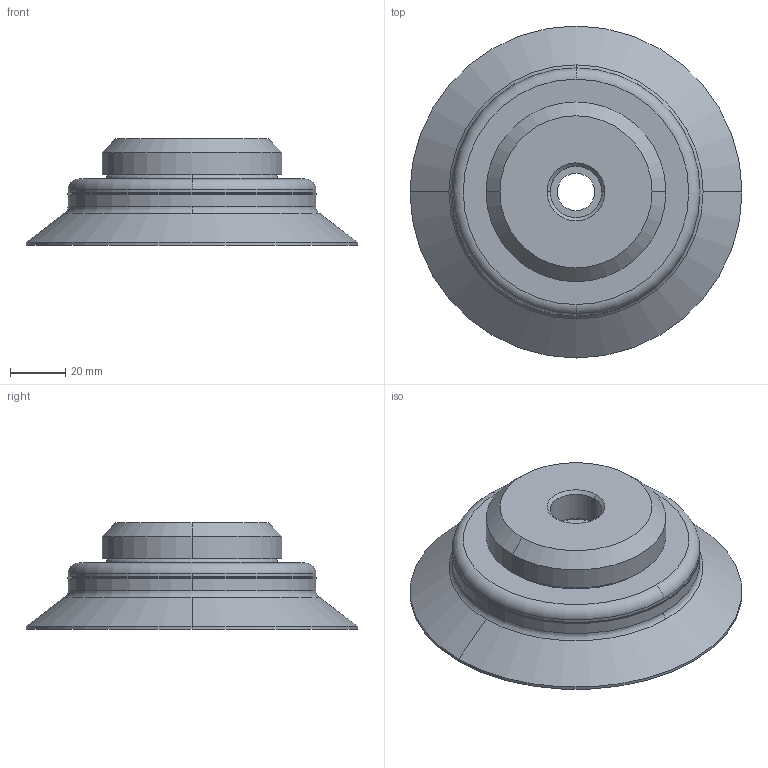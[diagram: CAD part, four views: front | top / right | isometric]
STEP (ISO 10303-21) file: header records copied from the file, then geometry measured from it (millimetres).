
FILE_DESCRIPTION (( 'STEP AP214' ), '1' );
FILE_NAME ('PFYN-120-NBR-55.STEP', '2021-06-30T03:39:23', ( '微软用户' ), ( '微软中国' ), 'SwSTEP 2.0', 'SolidWorks 2018', '' );
FILE_SCHEMA (( 'AUTOMOTIVE_DESIGN' ));
Length unit declared in the file: millimetre
Products named in the file (1): PFYN-120-NBR-55
Bounding box: 120 x 120 x 38.5 mm (x, y, z)
Volume: 155508.9 mm3; surface area: 42461.8 mm2
Topology: 2 solids, 2 shells, 194 faces, 446 edges, 272 vertices
Faces by surface type: cone 62, cylinder 60, plane 48, torus 24
Entity records: 7595 total; most frequent: CARTESIAN_POINT 1049, DIRECTION 1000, ORIENTED_EDGE 876, AXIS2_PLACEMENT_3D 439, EDGE_CURVE 438, VERTEX_POINT 272, CIRCLE 244, EDGE_LOOP 230
